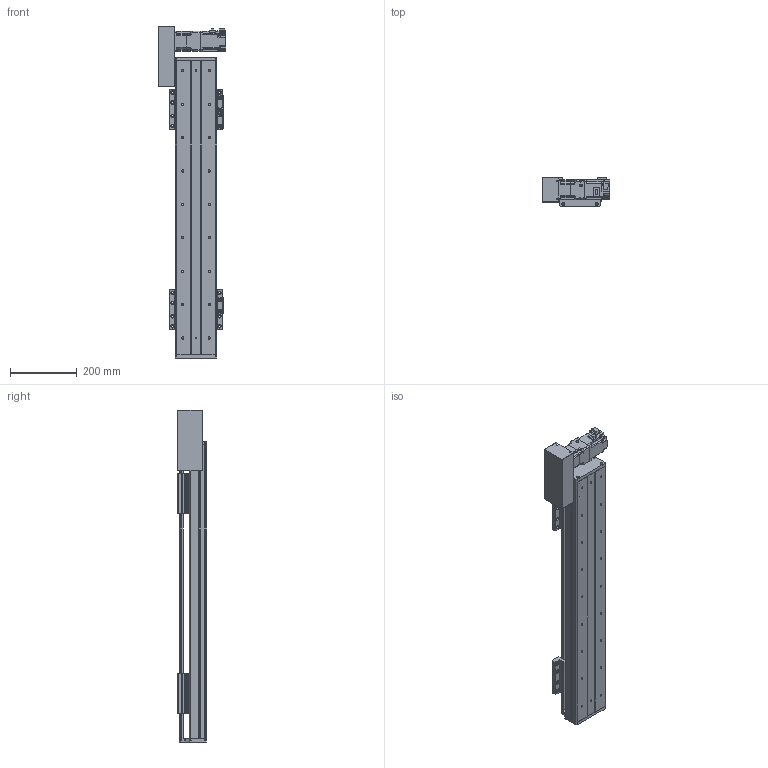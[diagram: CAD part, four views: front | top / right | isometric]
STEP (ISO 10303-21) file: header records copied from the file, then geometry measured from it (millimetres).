
FILE_DESCRIPTION(/* description */ (''),/* implementation_level */ '2;1');
FILE_NAME(/* name */ 'C:\Users\PC\Desktop\3D도면\STEP\DSB125-L2G-W0600-R.stp',/* time_stamp */ '2018-06-13T10:11:27+09:00',/* author */ ('PC'),/* organization */ (''),/* preprocessor_version */ 'ST-DEVELOPER v16.5',/* originating_system */ 'Autodesk Inventor 2017',/* authorisation */ '');
FILE_SCHEMA (('AUTOMOTIVE_DESIGN { 1 0 10303 214 3 1 1 }'));
Length unit declared in the file: millimetre
Products named in the file (12): DSB125-L-300ST; DSR125-BASE(S-TYPE); DSR125-REAR COVER-R01(170203); DSR125-REAR COVER-R01(170203)_1; DSR125-UP COVER-R01(170203); DSR125-TABLE(MSA15X); hg-kr23_; ab0601-p0401200402; 13-BELT COVER; DSR126-SENSOR DOG; pm-y65_step; SENSOR BRACKET(EE-SX674A)
Assembly tree (16 placements, depth 2):
  DSB125-L-300ST
    DSR125-BASE(S-TYPE)
    DSR125-REAR COVER-R01(170203)
    DSR125-REAR COVER-R01(170203)_1
    DSR125-UP COVER-R01(170203)
    DSR125-TABLE(MSA15X)  x2
    hg-kr23_
    ab0601-p0401200402
    13-BELT COVER
    DSR126-SENSOR DOG
    pm-y65_step  x3
    SENSOR BRACKET(EE-SX674A)  x3
Bounding box: 202.1 x 88 x 994 mm (x, y, z)
Volume: 3697010.1 mm3; surface area: 1068018.3 mm2
Topology: 17 solids, 22 shells, 1657 faces, 4491 edges, 2964 vertices
Faces by surface type: plane 908, cylinder 629, cone 108, sphere 8, torus 4
Full cylindrical faces by diameter (mm): 2.459 x20, 3.242 x16, 3.5 x6, 4 x1, 4.134 x16, 4.2 x4, 4.3 x1, 4.5 x50, 4.917 x20, 5 x27, 5.3 x1, 5.5 x4, 5.6 x8, 5.8 x4, 5.9 x8, 6 x4, 6.6 x22, 6.647 x18, 7.5 x32, 8.5 x8, 8.7 x1, 11 x22, 14 x1, 16 x2, 17 x1, 20 x1, 47 x1, 50 x3
Entity records: 35270 total; most frequent: CARTESIAN_POINT 6487, DIRECTION 6108, ORIENTED_EDGE 5470, EDGE_CURVE 2740, AXIS2_PLACEMENT_3D 2242, VERTEX_POINT 1949, EDGE_LOOP 1665, LINE 1624
